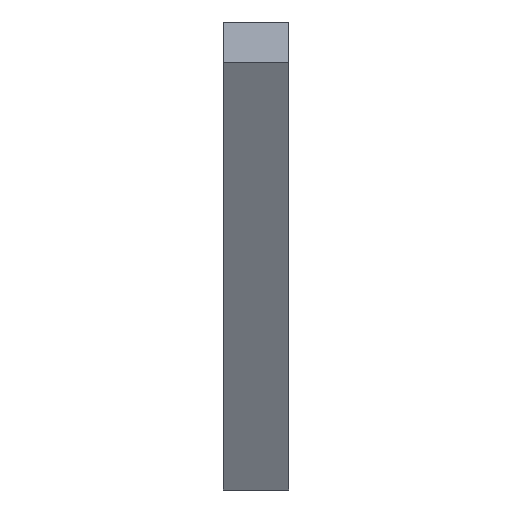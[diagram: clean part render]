
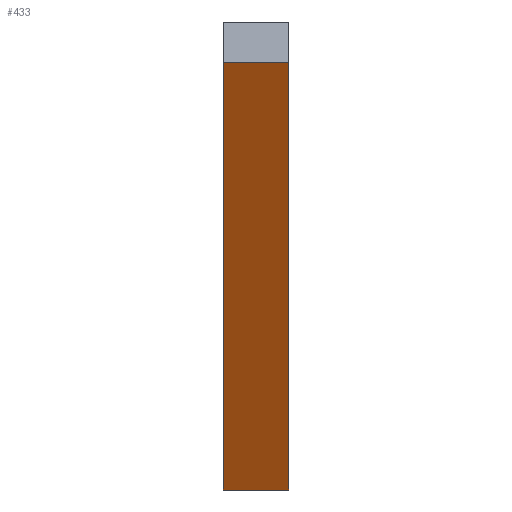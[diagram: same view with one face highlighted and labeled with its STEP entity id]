
A CAD part, top view. The second image highlights one B-rep face of the part: STEP entity #433.
In plain terms, the highlighted planar face has unit normal (0, -0.985, 0.174).
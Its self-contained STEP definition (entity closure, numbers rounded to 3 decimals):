
#37=CARTESIAN_POINT('',(-238.5,-174.32,215.843));
#38=VERTEX_POINT('',#37);
#45=CARTESIAN_POINT('',(-278.5,-174.32,215.843));
#46=VERTEX_POINT('',#45);
#47=CARTESIAN_POINT('',(-278.5,-174.32,215.843));
#48=DIRECTION('',(1.0,0.0,0.0));
#49=VECTOR('',#48,1.);
#50=LINE('',#47,#49);
#51=EDGE_CURVE('',#46,#38,#50,.T.);
#75=CARTESIAN_POINT('',(-238.5,82.332,1671.389));
#76=VERTEX_POINT('',#75);
#83=CARTESIAN_POINT('',(-238.5,-174.32,215.843));
#84=DIRECTION('',(0.,0.174,0.985));
#85=VECTOR('',#84,1.);
#86=LINE('',#83,#85);
#87=EDGE_CURVE('',#38,#76,#86,.T.);
#370=CARTESIAN_POINT('',(-278.5,82.332,1671.389));
#371=VERTEX_POINT('',#370);
#378=CARTESIAN_POINT('',(-238.5,82.332,1671.389));
#379=DIRECTION('',(-1.0,0.,0.));
#380=VECTOR('',#379,1.);
#381=LINE('',#378,#380);
#382=EDGE_CURVE('',#76,#371,#381,.T.);
#400=CARTESIAN_POINT('',(-278.5,82.332,1671.389));
#401=DIRECTION('',(0.,-0.174,-0.985));
#402=VECTOR('',#401,1.);
#403=LINE('',#400,#402);
#404=EDGE_CURVE('',#371,#46,#403,.T.);
#422=CARTESIAN_POINT('',(-278.5,-174.32,215.843));
#423=DIRECTION('',(0.0,-0.985,0.174));
#424=DIRECTION('',(1.0,0.0,0.0));
#425=AXIS2_PLACEMENT_3D('',#422,#423,#424);
#426=PLANE('',#425);
#427=ORIENTED_EDGE('',*,*,#51,.T.);
#428=ORIENTED_EDGE('',*,*,#87,.T.);
#429=ORIENTED_EDGE('',*,*,#382,.T.);
#430=ORIENTED_EDGE('',*,*,#404,.T.);
#431=EDGE_LOOP('',(#427,#428,#429,#430));
#432=FACE_BOUND('',#431,.T.);
#433=ADVANCED_FACE('',(#432),#426,.T.);
